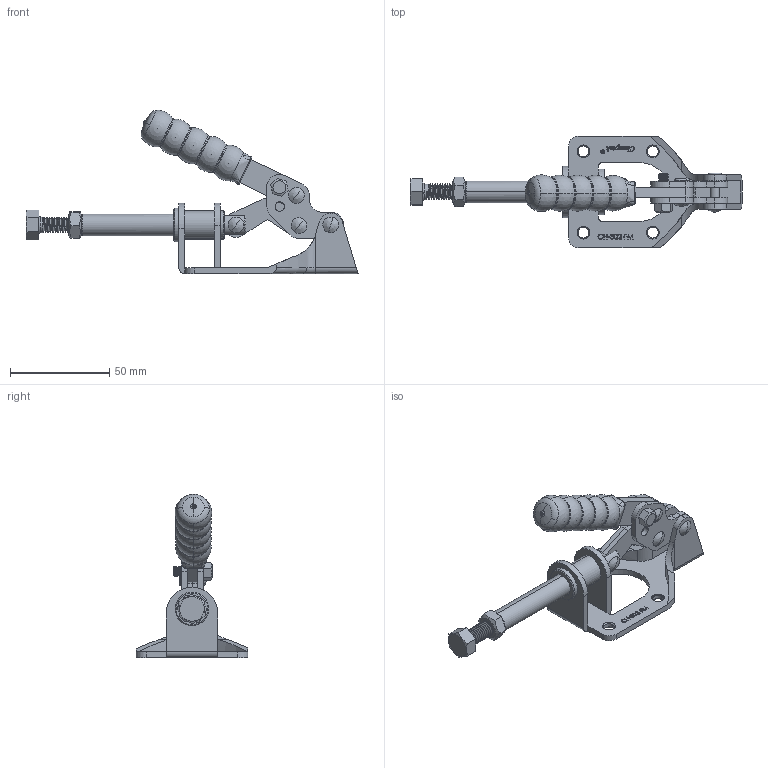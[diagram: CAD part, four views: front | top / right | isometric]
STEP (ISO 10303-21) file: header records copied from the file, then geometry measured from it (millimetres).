
FILE_DESCRIPTION (( 'STEP AP203' ), '1' );
FILE_NAME ('CH-302-FM.STEP', '2017-11-27T10:33:17', ( 'Windows' ), ( 'Microsoft' ), 'SwSTEP 2.0', 'SolidWorks 2015', '' );
FILE_SCHEMA (( 'CONFIG_CONTROL_DESIGN' ));
Length unit declared in the file: millimetre
Products named in the file (13): CH-SA-085012 SPINDLE SUPPLIED; CH-302-FM-01 BASE; CH-302-FM-05 LEAD SET; CH-302-FM-04 CONNECTING-PLATE; CH-302-FM-02 CREST STALK; CH-302-FM-06; CH-12130綵竄忒梟杶; CH-302-FM-03 HANDLE; CH-302-FM; CH-302-F-07; CH-SA-052008 SPINDLE SUPPLIED; CH-302-FM-08; M8 Nut
Assembly tree (16 placements, depth 2):
  CH-302-FM
    CH-302-FM-01 BASE
    CH-302-FM-04 CONNECTING-PLATE  x2
    CH-302-FM-06  x2
    CH-302-FM-03 HANDLE
    CH-302-F-07
    CH-SA-052008 SPINDLE SUPPLIED
    CH-302-FM-08  x3
    M8 Nut
    CH-SA-085012 SPINDLE SUPPLIED
    CH-302-FM-05 LEAD SET
    CH-302-FM-02 CREST STALK
    CH-12130綵竄忒梟杶
Bounding box: 167.55 x 56.4 x 82.43 mm (x, y, z)
Volume: 47790.4 mm3; surface area: 39566.1 mm2
Topology: 16 solids, 16 shells, 888 faces, 2409 edges, 1561 vertices
Faces by surface type: cylinder 298, plane 267, bspline 204, cone 53, torus 52, sphere 14
Entity records: 42106 total; most frequent: CARTESIAN_POINT 22205, ORIENTED_EDGE 4398, DIRECTION 3065, EDGE_CURVE 2199, VERTEX_POINT 1440, LINE 1025, VECTOR 1025, AXIS2_PLACEMENT_3D 1020
